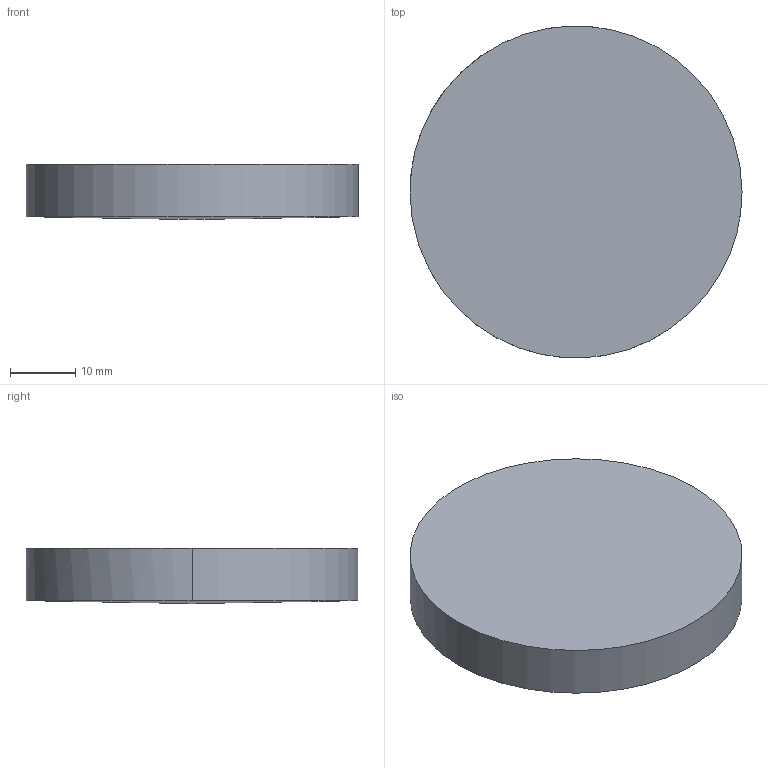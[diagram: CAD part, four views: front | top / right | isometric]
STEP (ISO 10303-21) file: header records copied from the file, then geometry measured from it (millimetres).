
FILE_DESCRIPTION ((), '1');
FILE_NAME ('\\fileserver\Daten\Applikationen\Optikdesign\SPA-Design\aktuelle SPA-Designs\Linsenkataloge - 2016-Juni\Zemax\XFL\XFL50-010.STP', '2016-05-24T14:29:38', ('Unknown'), ('Unknown'), 'HarmonyWare STEP v2.0.1', 'HarmonyWare Translators', '');
FILE_SCHEMA (('CONFIG_CONTROL_DESIGN'));
Length unit declared in the file: millimetre
Products named in the file (1): NONE
Bounding box: 50.8 x 50.77 x 8.44 mm (x, y, z)
Volume: 16516.2 mm3; surface area: 5333.8 mm2
Topology: 1 solids, 1 shells, 4 faces, 9 edges, 6 vertices
Faces by surface type: cylinder 2, bspline 1, plane 1
Entity records: 265 total; most frequent: CARTESIAN_POINT 114, ORIENTED_EDGE 16, EDGE_CURVE 8, PERSON 8, ORGANIZATION 8, PERSON_AND_ORGANIZATION 8, VERTEX_POINT 6, DIRECTION 6
